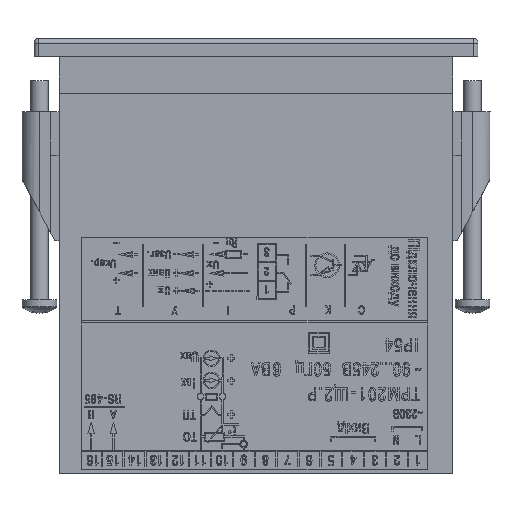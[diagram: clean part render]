
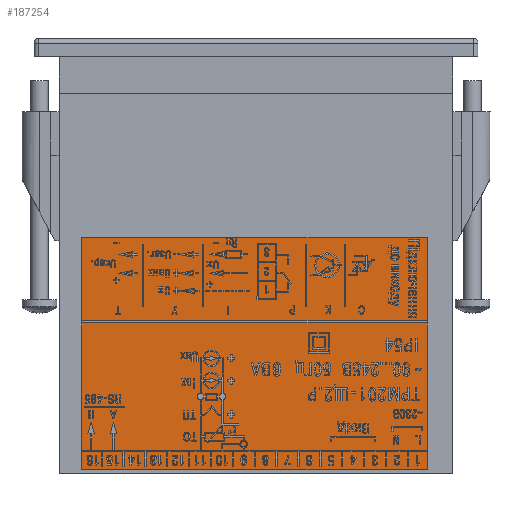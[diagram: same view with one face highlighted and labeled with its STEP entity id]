
A CAD part, front view. The second image highlights one B-rep face of the part: STEP entity #187254.
In plain terms, the highlighted planar face has unit normal (0, -1, 0).
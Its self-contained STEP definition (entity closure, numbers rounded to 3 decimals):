
#4949 = EDGE_CURVE ( 'NONE', #186376, #106427, #194249, .T. ) ;
#16579 = DIRECTION ( 'NONE',  ( 0., 0., -1. ) ) ;
#25943 = LINE ( 'NONE', #160741, #147052 ) ;
#35684 = PLANE ( 'NONE',  #179043 ) ;
#51487 = DIRECTION ( 'NONE',  ( 0., 0., -1. ) ) ;
#63864 = ORIENTED_EDGE ( 'NONE', *, *, #103169, .T. ) ;
#71147 = DIRECTION ( 'NONE',  ( -1., 0., 0. ) ) ;
#75036 = CARTESIAN_POINT ( 'NONE',  ( -39.862, -20.6, -45.5 ) ) ;
#84513 = CARTESIAN_POINT ( 'NONE',  ( -39.862, -20.6, -45.5 ) ) ;
#89264 = LINE ( 'NONE', #194548, #187600 ) ;
#103169 = EDGE_CURVE ( 'NONE', #143678, #186376, #25943, .T. ) ;
#103619 = VECTOR ( 'NONE', #16579, 1000. ) ;
#105592 = CARTESIAN_POINT ( 'NONE',  ( 39.138, -20.6, -98.5 ) ) ;
#106427 = VERTEX_POINT ( 'NONE', #84513 ) ;
#108862 = ORIENTED_EDGE ( 'NONE', *, *, #4949, .T. ) ;
#112054 = ORIENTED_EDGE ( 'NONE', *, *, #163709, .T. ) ;
#112360 = VECTOR ( 'NONE', #71147, 1000. ) ;
#122370 = EDGE_LOOP ( 'NONE', ( #63864, #108862, #184331, #112054 ) ) ;
#124450 = EDGE_CURVE ( 'NONE', #106427, #145435, #184126, .T. ) ;
#126818 = CARTESIAN_POINT ( 'NONE',  ( 0., -20.6, 0. ) ) ;
#130576 = CARTESIAN_POINT ( 'NONE',  ( -39.862, -20.6, -98.5 ) ) ;
#143678 = VERTEX_POINT ( 'NONE', #105592 ) ;
#145435 = VERTEX_POINT ( 'NONE', #130576 ) ;
#147052 = VECTOR ( 'NONE', #192597, 1000. ) ;
#160741 = CARTESIAN_POINT ( 'NONE',  ( 39.138, -20.6, -45.5 ) ) ;
#163709 = EDGE_CURVE ( 'NONE', #145435, #143678, #89264, .T. ) ;
#164649 = DIRECTION ( 'NONE',  ( 1., 0., 0. ) ) ;
#175113 = CARTESIAN_POINT ( 'NONE',  ( 39.138, -20.6, -45.5 ) ) ;
#177309 = CARTESIAN_POINT ( 'NONE',  ( -39.862, -20.6, -45.5 ) ) ;
#179043 = AXIS2_PLACEMENT_3D ( 'NONE', #126818, #187403, #51487 ) ;
#184126 = LINE ( 'NONE', #75036, #103619 ) ;
#184331 = ORIENTED_EDGE ( 'NONE', *, *, #124450, .T. ) ;
#185420 = FACE_OUTER_BOUND ( 'NONE', #122370, .T. ) ;
#186376 = VERTEX_POINT ( 'NONE', #175113 ) ;
#187254 = ADVANCED_FACE ( 'NONE', ( #185420 ), #35684, .T. ) ;
#187403 = DIRECTION ( 'NONE',  ( 0., -1., 0. ) ) ;
#187600 = VECTOR ( 'NONE', #164649, 1000. ) ;
#192597 = DIRECTION ( 'NONE',  ( 0., 0., 1. ) ) ;
#194249 = LINE ( 'NONE', #177309, #112360 ) ;
#194548 = CARTESIAN_POINT ( 'NONE',  ( -39.862, -20.6, -98.5 ) ) ;
